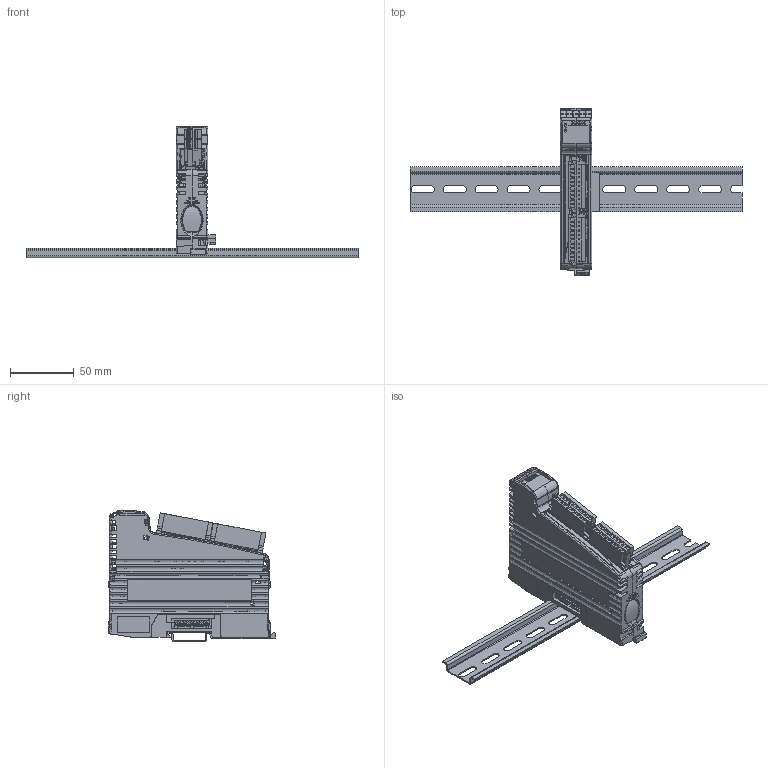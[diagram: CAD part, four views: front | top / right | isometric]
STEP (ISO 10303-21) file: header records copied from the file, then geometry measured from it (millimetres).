
FILE_DESCRIPTION(/* description */ ('Solid'),/* implementation_level */ '2;1');
FILE_NAME(/* name */ 'FG_JX3-AI4_001_00',/* time_stamp */ '2016-02-19T11:08:25+01:00',/* author */ ('T. Busch'),/* organization */ ('Jetter AG'),/* preprocessor_version */ 'ST-DEVELOPER v16.7',/* originating_system */ 'DEX',/* authorisation */ $);
FILE_SCHEMA (('AUTOMOTIVE_DESIGN {1 0 10303 214 3 1 1}'));
Products named in the file (17): FG_JX3-AI4_001_00; GE_JX3_AI4_001; Sw-LI_JX3_001_1; PCBY_JX3-AI4_001_03; ST_10_E_WI_RM3_5; Fo_JX3-AI4_001_1; BL_JX3-AI4_013; Sw-RE_JX3_001; BoY_JX3_01_001_1; Bo_JX3_001_1; De_JX3_001; PCBY_JX3-BP_001_03; BU_10_E_WI_RM2_54; ST_10_E_WI_RM2_54; KT_Din_Schiene_Niedrig; Bc_Weidmüller_001; BLZF_3_5_10_F_SN_SW_1691190000
Assembly tree (22 placements, depth 4):
  FG_JX3-AI4_001_00
    GE_JX3_AI4_001
      Sw-LI_JX3_001_1
      PCBY_JX3-AI4_001_03
        ST_10_E_WI_RM3_5  x2
      Fo_JX3-AI4_001_1
      BL_JX3-AI4_013
      Sw-RE_JX3_001
    BoY_JX3_01_001_1
      Bo_JX3_001_1
      De_JX3_001
      PCBY_JX3-BP_001_03
        BU_10_E_WI_RM2_54
        ST_10_E_WI_RM2_54
    KT_Din_Schiene_Niedrig
    Bc_Weidmüller_001  x5
    BLZF_3_5_10_F_SN_SW_1691190000  x2
Bounding box: 260 x 131.39 x 102.91 mm (x, y, z)
Surface area: 104677.3 mm2
Topology: 24 solids, 25 shells, 5431 faces, 14841 edges, 9623 vertices
Faces by surface type: plane 4209, cylinder 633, cone 266, bspline 221, sphere 70, torus 32
Full cylindrical faces by diameter (mm): 0.6 x20, 0.75 x10, 0.9 x10, 1.567 x8, 1.8 x4, 2.9 x4
Entity records: 168029 total; most frequent: CARTESIAN_POINT 46976, ORIENTED_EDGE 23118, DIRECTION 20736, EDGE_CURVE 11559, LINE 9230, VECTOR 9230, VERTEX_POINT 7610, AXIS2_PLACEMENT_3D 5753
